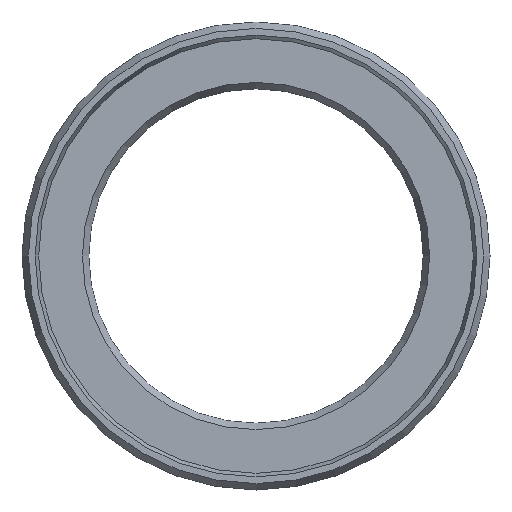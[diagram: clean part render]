
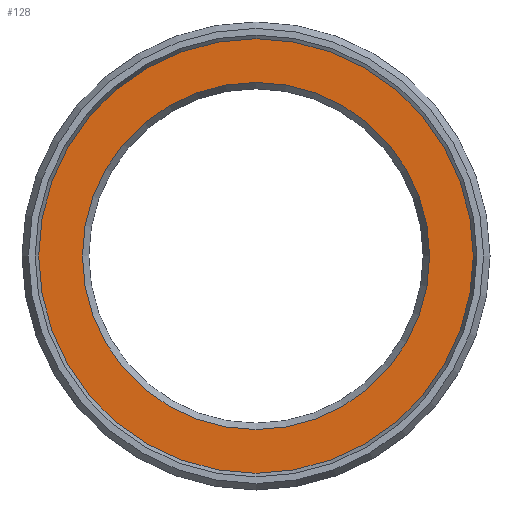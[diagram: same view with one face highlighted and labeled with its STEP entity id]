
A CAD part, left-side view. The second image highlights one B-rep face of the part: STEP entity #128.
In plain terms, the highlighted planar face has unit normal (-1, 0, 0).
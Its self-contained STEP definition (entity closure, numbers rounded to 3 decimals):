
#112=PLANE('',#329);
#128=ADVANCED_FACE('',(#163,#164),#112,.T.);
#163=FACE_BOUND('',#199,.T.);
#164=FACE_BOUND('',#200,.T.);
#199=EDGE_LOOP('',(#235));
#200=EDGE_LOOP('',(#236));
#235=ORIENTED_EDGE('',*,*,#276,.T.);
#236=ORIENTED_EDGE('',*,*,#275,.F.);
#257=VERTEX_POINT('',#454);
#258=VERTEX_POINT('',#457);
#275=EDGE_CURVE('',#257,#257,#293,.T.);
#276=EDGE_CURVE('',#258,#258,#294,.T.);
#293=CIRCLE('',#326,19.5);
#294=CIRCLE('',#328,15.577);
#326=AXIS2_PLACEMENT_3D('',#453,#394,#395);
#328=AXIS2_PLACEMENT_3D('',#456,#398,#399);
#329=AXIS2_PLACEMENT_3D('',#458,#400,#401);
#394=DIRECTION('',(1.,0.,0.));
#395=DIRECTION('',(0.,0.,-1.));
#398=DIRECTION('',(1.,0.,0.));
#399=DIRECTION('',(0.,0.,1.));
#400=DIRECTION('',(-1.,0.,0.));
#401=DIRECTION('',(0.,0.,1.));
#453=CARTESIAN_POINT('',(0.,0.,0.));
#454=CARTESIAN_POINT('',(0.,0.,-19.5));
#456=CARTESIAN_POINT('',(0.,0.,0.));
#457=CARTESIAN_POINT('',(0.,0.,15.577));
#458=CARTESIAN_POINT('',(0.,19.5,0.));
